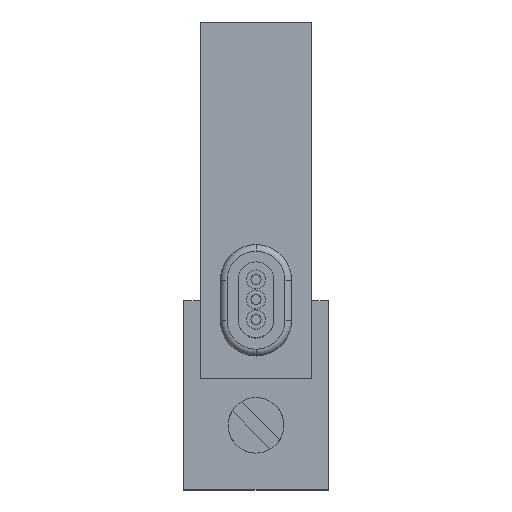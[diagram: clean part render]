
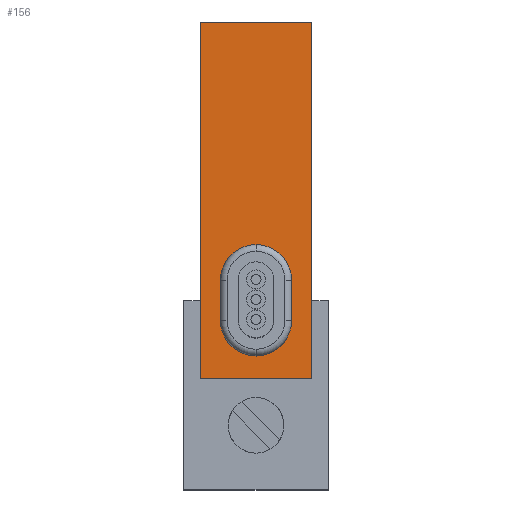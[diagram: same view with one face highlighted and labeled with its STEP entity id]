
A CAD part, top view. The second image highlights one B-rep face of the part: STEP entity #156.
In plain terms, the highlighted planar face has unit normal (0, 0, 1).
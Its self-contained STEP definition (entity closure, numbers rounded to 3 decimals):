
#156 = ADVANCED_FACE ( 'NONE', ( #748, #747 ), #746, .T. ) ;
#157 = EDGE_LOOP ( 'NONE', ( #158, #162, #165, #168 ) ) ;
#158 = ORIENTED_EDGE ( 'NONE', *, *, #159, .T. ) ;
#159 = EDGE_CURVE ( 'NONE', #160, #161, #741, .T. ) ;
#160 = VERTEX_POINT ( 'NONE', #737 ) ;
#161 = VERTEX_POINT ( 'NONE', #736 ) ;
#162 = ORIENTED_EDGE ( 'NONE', *, *, #163, .T. ) ;
#163 = EDGE_CURVE ( 'NONE', #161, #164, #735, .T. ) ;
#164 = VERTEX_POINT ( 'NONE', #731 ) ;
#165 = ORIENTED_EDGE ( 'NONE', *, *, #166, .T. ) ;
#166 = EDGE_CURVE ( 'NONE', #164, #167, #730, .T. ) ;
#167 = VERTEX_POINT ( 'NONE', #726 ) ;
#168 = ORIENTED_EDGE ( 'NONE', *, *, #169, .T. ) ;
#169 = EDGE_CURVE ( 'NONE', #167, #160, #725, .T. ) ;
#170 = EDGE_LOOP ( 'NONE', ( #171, #175, #178, #250, #282, #285 ) ) ;
#171 = ORIENTED_EDGE ( 'NONE', *, *, #172, .F. ) ;
#172 = EDGE_CURVE ( 'NONE', #173, #174, #721, .T. ) ;
#173 = VERTEX_POINT ( 'NONE', #717 ) ;
#174 = VERTEX_POINT ( 'NONE', #716 ) ;
#175 = ORIENTED_EDGE ( 'NONE', *, *, #176, .T. ) ;
#176 = EDGE_CURVE ( 'NONE', #173, #177, #715, .T. ) ;
#177 = VERTEX_POINT ( 'NONE', #710 ) ;
#178 = ORIENTED_EDGE ( 'NONE', *, *, #251, .T. ) ;
#250 = ORIENTED_EDGE ( 'NONE', *, *, #281, .F. ) ;
#251 = EDGE_CURVE ( 'NONE', #177, #252, #1085, .T. ) ;
#252 = VERTEX_POINT ( 'NONE', #1080 ) ;
#253 = VERTEX_POINT ( 'NONE', #1079 ) ;
#281 = EDGE_CURVE ( 'NONE', #253, #252, #1169, .T. ) ;
#282 = ORIENTED_EDGE ( 'NONE', *, *, #283, .T. ) ;
#283 = EDGE_CURVE ( 'NONE', #253, #284, #1165, .T. ) ;
#284 = VERTEX_POINT ( 'NONE', #1160 ) ;
#285 = ORIENTED_EDGE ( 'NONE', *, *, #286, .T. ) ;
#286 = EDGE_CURVE ( 'NONE', #284, #174, #1158, .T. ) ;
#710 = CARTESIAN_POINT ( 'NONE',  ( 0., 6., 9.4 ) ) ;
#711 = DIRECTION ( 'NONE',  ( 1., 0., 0. ) ) ;
#712 = DIRECTION ( 'NONE',  ( 0., 0., -1. ) ) ;
#713 = CARTESIAN_POINT ( 'NONE',  ( 0., 7.6, 9.4 ) ) ;
#714 = AXIS2_PLACEMENT_3D ( 'NONE', #713, #712, #711 ) ;
#715 = CIRCLE ( 'NONE', #714, 1.6 ) ;
#716 = CARTESIAN_POINT ( 'NONE',  ( 1.6, 9.4, 9.4 ) ) ;
#717 = CARTESIAN_POINT ( 'NONE',  ( 1.6, 7.6, 9.4 ) ) ;
#718 = DIRECTION ( 'NONE',  ( 0., 1., 0. ) ) ;
#719 = VECTOR ( 'NONE', #718, 1000. ) ;
#720 = CARTESIAN_POINT ( 'NONE',  ( 1.6, 6., 9.4 ) ) ;
#721 = LINE ( 'NONE', #720, #719 ) ;
#722 = DIRECTION ( 'NONE',  ( -1., 0., 0. ) ) ;
#723 = VECTOR ( 'NONE', #722, 1000. ) ;
#724 = CARTESIAN_POINT ( 'NONE',  ( -2.5, 21., 9.4 ) ) ;
#725 = LINE ( 'NONE', #724, #723 ) ;
#726 = CARTESIAN_POINT ( 'NONE',  ( 2.5, 21., 9.4 ) ) ;
#727 = DIRECTION ( 'NONE',  ( 0., 1., 0. ) ) ;
#728 = VECTOR ( 'NONE', #727, 1000. ) ;
#729 = CARTESIAN_POINT ( 'NONE',  ( 2.5, 21., 9.4 ) ) ;
#730 = LINE ( 'NONE', #729, #728 ) ;
#731 = CARTESIAN_POINT ( 'NONE',  ( 2.5, 5., 9.4 ) ) ;
#732 = DIRECTION ( 'NONE',  ( 1., 0., 0. ) ) ;
#733 = VECTOR ( 'NONE', #732, 1000. ) ;
#734 = CARTESIAN_POINT ( 'NONE',  ( -2.5, 5., 9.4 ) ) ;
#735 = LINE ( 'NONE', #734, #733 ) ;
#736 = CARTESIAN_POINT ( 'NONE',  ( -2.5, 5., 9.4 ) ) ;
#737 = CARTESIAN_POINT ( 'NONE',  ( -2.5, 21., 9.4 ) ) ;
#738 = DIRECTION ( 'NONE',  ( 0., -1., 0. ) ) ;
#739 = VECTOR ( 'NONE', #738, 1000. ) ;
#740 = CARTESIAN_POINT ( 'NONE',  ( -2.5, 21., 9.4 ) ) ;
#741 = LINE ( 'NONE', #740, #739 ) ;
#742 = DIRECTION ( 'NONE',  ( 1., 0., 0. ) ) ;
#743 = DIRECTION ( 'NONE',  ( 0., 0., 1. ) ) ;
#744 = CARTESIAN_POINT ( 'NONE',  ( -2.5, 21., 9.4 ) ) ;
#745 = AXIS2_PLACEMENT_3D ( 'NONE', #744, #743, #742 ) ;
#746 = PLANE ( 'NONE',  #745 ) ;
#747 = FACE_BOUND ( 'NONE', #170, .T. ) ;
#748 = FACE_OUTER_BOUND ( 'NONE', #157, .T. ) ;
#1079 = CARTESIAN_POINT ( 'NONE',  ( -1.6, 9.4, 9.4 ) ) ;
#1080 = CARTESIAN_POINT ( 'NONE',  ( -1.6, 7.6, 9.4 ) ) ;
#1081 = DIRECTION ( 'NONE',  ( 1., 0., 0. ) ) ;
#1082 = DIRECTION ( 'NONE',  ( 0., 0., -1. ) ) ;
#1083 = CARTESIAN_POINT ( 'NONE',  ( 0., 7.6, 9.4 ) ) ;
#1084 = AXIS2_PLACEMENT_3D ( 'NONE', #1083, #1082, #1081 ) ;
#1085 = CIRCLE ( 'NONE', #1084, 1.6 ) ;
#1154 = DIRECTION ( 'NONE',  ( 1., 0., 0. ) ) ;
#1155 = DIRECTION ( 'NONE',  ( 0., 0., -1. ) ) ;
#1156 = CARTESIAN_POINT ( 'NONE',  ( 0., 9.4, 9.4 ) ) ;
#1157 = AXIS2_PLACEMENT_3D ( 'NONE', #1156, #1155, #1154 ) ;
#1158 = CIRCLE ( 'NONE', #1157, 1.6 ) ;
#1160 = CARTESIAN_POINT ( 'NONE',  ( 0., 11., 9.4 ) ) ;
#1161 = DIRECTION ( 'NONE',  ( 1., 0., 0. ) ) ;
#1162 = DIRECTION ( 'NONE',  ( 0., 0., -1. ) ) ;
#1163 = CARTESIAN_POINT ( 'NONE',  ( 0., 9.4, 9.4 ) ) ;
#1164 = AXIS2_PLACEMENT_3D ( 'NONE', #1163, #1162, #1161 ) ;
#1165 = CIRCLE ( 'NONE', #1164, 1.6 ) ;
#1166 = DIRECTION ( 'NONE',  ( 0., -1., 0. ) ) ;
#1167 = VECTOR ( 'NONE', #1166, 1000. ) ;
#1168 = CARTESIAN_POINT ( 'NONE',  ( -1.6, 6., 9.4 ) ) ;
#1169 = LINE ( 'NONE', #1168, #1167 ) ;
